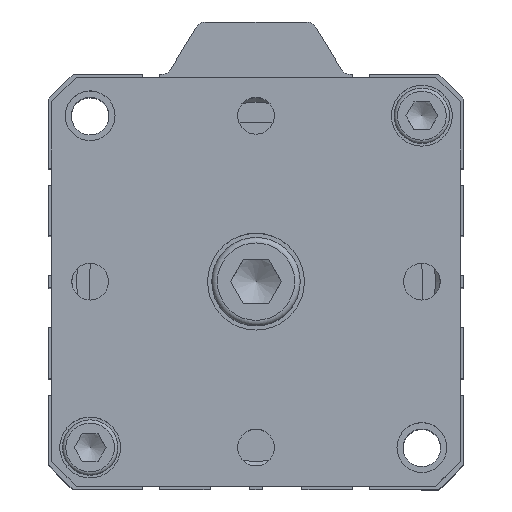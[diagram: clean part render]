
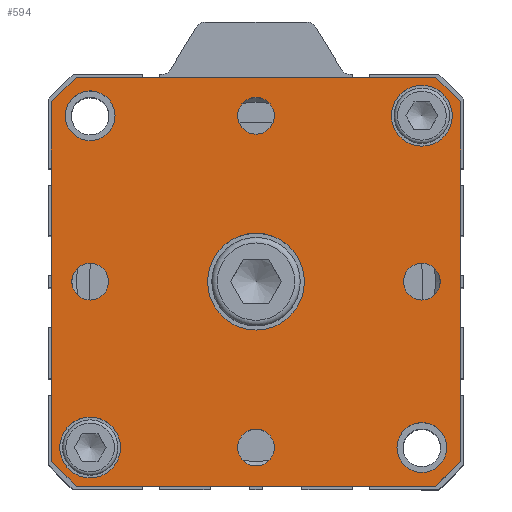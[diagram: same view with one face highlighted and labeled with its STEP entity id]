
A CAD part, top view. The second image highlights one B-rep face of the part: STEP entity #594.
In plain terms, the highlighted planar face has unit normal (0, 0, 1).
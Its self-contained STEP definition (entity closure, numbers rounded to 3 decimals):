
#196=CARTESIAN_POINT('',(32.859,35.684,105.5));
#197=VERTEX_POINT('',#196);
#198=CARTESIAN_POINT('',(37.359,31.184,105.5));
#199=VERTEX_POINT('',#198);
#200=CARTESIAN_POINT('',(32.859,35.684,105.5));
#201=DIRECTION('',(0.707,-0.707,0.0));
#202=VECTOR('',#201,6.364);
#203=LINE('',#200,#202);
#204=EDGE_CURVE('',#197,#199,#203,.T.);
#383=CARTESIAN_POINT('',(37.359,-33.816,105.5));
#384=VERTEX_POINT('',#383);
#385=CARTESIAN_POINT('',(37.359,31.184,105.5));
#386=DIRECTION('',(0.0,-1.0,0.0));
#387=VECTOR('',#386,65.);
#388=LINE('',#385,#387);
#389=EDGE_CURVE('',#199,#384,#388,.T.);
#406=CARTESIAN_POINT('',(32.859,-38.316,105.5));
#407=VERTEX_POINT('',#406);
#408=CARTESIAN_POINT('',(37.359,-33.816,105.5));
#409=DIRECTION('',(-0.707,-0.707,0.0));
#410=VECTOR('',#409,6.364);
#411=LINE('',#408,#410);
#412=EDGE_CURVE('',#384,#407,#411,.T.);
#430=CARTESIAN_POINT('',(-36.641,31.184,105.5));
#431=VERTEX_POINT('',#430);
#432=CARTESIAN_POINT('',(-32.141,35.684,105.5));
#433=VERTEX_POINT('',#432);
#434=CARTESIAN_POINT('',(-36.641,31.184,105.5));
#435=DIRECTION('',(0.707,0.707,0.0));
#436=VECTOR('',#435,6.364);
#437=LINE('',#434,#436);
#438=EDGE_CURVE('',#431,#433,#437,.T.);
#456=CARTESIAN_POINT('',(0.359,-1.316,105.5));
#457=DIRECTION('',(0.0,0.0,1.0));
#458=DIRECTION('',(1.0,0.0,0.0));
#459=AXIS2_PLACEMENT_3D('',#456,#457,#458);
#460=PLANE('',#459);
#461=ORIENTED_EDGE('',*,*,#204,.F.);
#462=CARTESIAN_POINT('',(-32.141,35.684,105.5));
#463=DIRECTION('',(1.0,0.0,0.0));
#464=VECTOR('',#463,65.0);
#465=LINE('',#462,#464);
#466=EDGE_CURVE('',#433,#197,#465,.T.);
#467=ORIENTED_EDGE('',*,*,#466,.F.);
#468=ORIENTED_EDGE('',*,*,#438,.F.);
#469=CARTESIAN_POINT('',(-36.641,-33.816,105.5));
#470=VERTEX_POINT('',#469);
#471=CARTESIAN_POINT('',(-36.641,-33.816,105.5));
#472=DIRECTION('',(0.0,1.0,0.0));
#473=VECTOR('',#472,65.0);
#474=LINE('',#471,#473);
#475=EDGE_CURVE('',#470,#431,#474,.T.);
#476=ORIENTED_EDGE('',*,*,#475,.F.);
#477=CARTESIAN_POINT('',(-32.141,-38.316,105.5));
#478=VERTEX_POINT('',#477);
#479=CARTESIAN_POINT('',(-32.141,-38.316,105.5));
#480=DIRECTION('',(-0.707,0.707,0.0));
#481=VECTOR('',#480,6.364);
#482=LINE('',#479,#481);
#483=EDGE_CURVE('',#478,#470,#482,.T.);
#484=ORIENTED_EDGE('',*,*,#483,.F.);
#485=CARTESIAN_POINT('',(32.859,-38.316,105.5));
#486=DIRECTION('',(-1.0,0.0,0.0));
#487=VECTOR('',#486,65.0);
#488=LINE('',#485,#487);
#489=EDGE_CURVE('',#407,#478,#488,.T.);
#490=ORIENTED_EDGE('',*,*,#489,.F.);
#491=ORIENTED_EDGE('',*,*,#412,.F.);
#492=ORIENTED_EDGE('',*,*,#389,.F.);
#493=EDGE_LOOP('',(#461,#467,#468,#476,#484,#490,#491,#492));
#494=FACE_OUTER_BOUND('',#493,.T.);
#495=CARTESIAN_POINT('',(9.109,-1.316,105.5));
#496=VERTEX_POINT('',#495);
#497=CARTESIAN_POINT('',(0.359,-1.316,105.5));
#498=DIRECTION('',(0.0,0.0,-1.0));
#499=DIRECTION('',(1.0,0.0,0.0));
#500=AXIS2_PLACEMENT_3D('',#497,#498,#499);
#501=CIRCLE('',#500,8.75);
#502=EDGE_CURVE('',#496,#496,#501,.T.);
#503=ORIENTED_EDGE('',*,*,#502,.T.);
#504=EDGE_LOOP('',(#503));
#505=FACE_BOUND('',#504,.T.);
#506=CARTESIAN_POINT('',(-24.141,-31.316,105.5));
#507=VERTEX_POINT('',#506);
#508=CARTESIAN_POINT('',(-29.641,-31.316,105.5));
#509=DIRECTION('',(0.0,0.0,-1.0));
#510=DIRECTION('',(1.0,0.0,0.0));
#511=AXIS2_PLACEMENT_3D('',#508,#509,#510);
#512=CIRCLE('',#511,5.5);
#513=EDGE_CURVE('',#507,#507,#512,.T.);
#514=ORIENTED_EDGE('',*,*,#513,.T.);
#515=EDGE_LOOP('',(#514));
#516=FACE_BOUND('',#515,.T.);
#517=CARTESIAN_POINT('',(35.859,28.684,105.5));
#518=VERTEX_POINT('',#517);
#519=CARTESIAN_POINT('',(30.359,28.684,105.5));
#520=DIRECTION('',(0.0,0.0,-1.0));
#521=DIRECTION('',(1.0,0.0,0.0));
#522=AXIS2_PLACEMENT_3D('',#519,#520,#521);
#523=CIRCLE('',#522,5.5);
#524=EDGE_CURVE('',#518,#518,#523,.T.);
#525=ORIENTED_EDGE('',*,*,#524,.T.);
#526=EDGE_LOOP('',(#525));
#527=FACE_BOUND('',#526,.T.);
#528=CARTESIAN_POINT('',(33.682,-1.316,105.5));
#529=VERTEX_POINT('',#528);
#530=CARTESIAN_POINT('',(30.359,-1.316,105.5));
#531=DIRECTION('',(0.0,0.0,-1.0));
#532=DIRECTION('',(1.0,0.0,0.0));
#533=AXIS2_PLACEMENT_3D('',#530,#531,#532);
#534=CIRCLE('',#533,3.324);
#535=EDGE_CURVE('',#529,#529,#534,.T.);
#536=ORIENTED_EDGE('',*,*,#535,.T.);
#537=EDGE_LOOP('',(#536));
#538=FACE_BOUND('',#537,.T.);
#539=CARTESIAN_POINT('',(3.682,-31.316,105.5));
#540=VERTEX_POINT('',#539);
#541=CARTESIAN_POINT('',(0.359,-31.316,105.5));
#542=DIRECTION('',(0.0,0.0,-1.0));
#543=DIRECTION('',(1.0,0.0,0.0));
#544=AXIS2_PLACEMENT_3D('',#541,#542,#543);
#545=CIRCLE('',#544,3.324);
#546=EDGE_CURVE('',#540,#540,#545,.T.);
#547=ORIENTED_EDGE('',*,*,#546,.T.);
#548=EDGE_LOOP('',(#547));
#549=FACE_BOUND('',#548,.T.);
#550=CARTESIAN_POINT('',(-26.318,-1.316,105.5));
#551=VERTEX_POINT('',#550);
#552=CARTESIAN_POINT('',(-29.641,-1.316,105.5));
#553=DIRECTION('',(0.0,0.0,-1.0));
#554=DIRECTION('',(1.0,0.0,0.0));
#555=AXIS2_PLACEMENT_3D('',#552,#553,#554);
#556=CIRCLE('',#555,3.324);
#557=EDGE_CURVE('',#551,#551,#556,.T.);
#558=ORIENTED_EDGE('',*,*,#557,.T.);
#559=EDGE_LOOP('',(#558));
#560=FACE_BOUND('',#559,.T.);
#561=CARTESIAN_POINT('',(3.682,28.684,105.5));
#562=VERTEX_POINT('',#561);
#563=CARTESIAN_POINT('',(0.359,28.684,105.5));
#564=DIRECTION('',(0.0,0.0,-1.0));
#565=DIRECTION('',(1.0,0.0,0.0));
#566=AXIS2_PLACEMENT_3D('',#563,#564,#565);
#567=CIRCLE('',#566,3.324);
#568=EDGE_CURVE('',#562,#562,#567,.T.);
#569=ORIENTED_EDGE('',*,*,#568,.T.);
#570=EDGE_LOOP('',(#569));
#571=FACE_BOUND('',#570,.T.);
#572=CARTESIAN_POINT('',(34.859,-31.316,105.5));
#573=VERTEX_POINT('',#572);
#574=CARTESIAN_POINT('',(30.359,-31.316,105.5));
#575=DIRECTION('',(0.0,0.0,-1.0));
#576=DIRECTION('',(-1.0,0.0,0.0));
#577=AXIS2_PLACEMENT_3D('',#574,#575,#576);
#578=CIRCLE('',#577,4.5);
#579=EDGE_CURVE('',#573,#573,#578,.T.);
#580=ORIENTED_EDGE('',*,*,#579,.T.);
#581=EDGE_LOOP('',(#580));
#582=FACE_BOUND('',#581,.T.);
#583=CARTESIAN_POINT('',(-25.141,28.684,105.5));
#584=VERTEX_POINT('',#583);
#585=CARTESIAN_POINT('',(-29.641,28.684,105.5));
#586=DIRECTION('',(0.0,0.0,-1.0));
#587=DIRECTION('',(-1.0,0.0,0.0));
#588=AXIS2_PLACEMENT_3D('',#585,#586,#587);
#589=CIRCLE('',#588,4.5);
#590=EDGE_CURVE('',#584,#584,#589,.T.);
#591=ORIENTED_EDGE('',*,*,#590,.T.);
#592=EDGE_LOOP('',(#591));
#593=FACE_BOUND('',#592,.T.);
#594=ADVANCED_FACE('',(#494,#505,#516,#527,#538,#549,#560,#571,#582,#593),#460,.T.);
